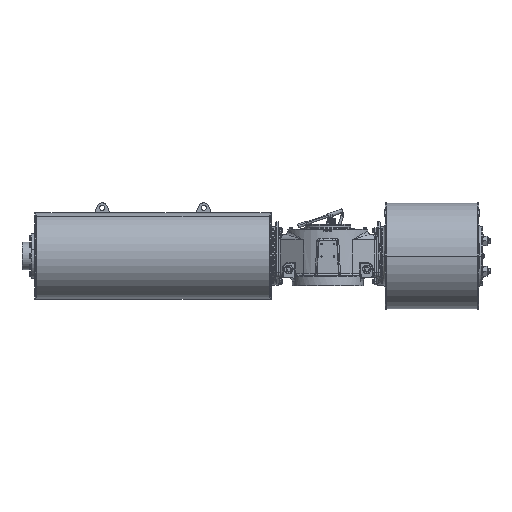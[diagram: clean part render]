
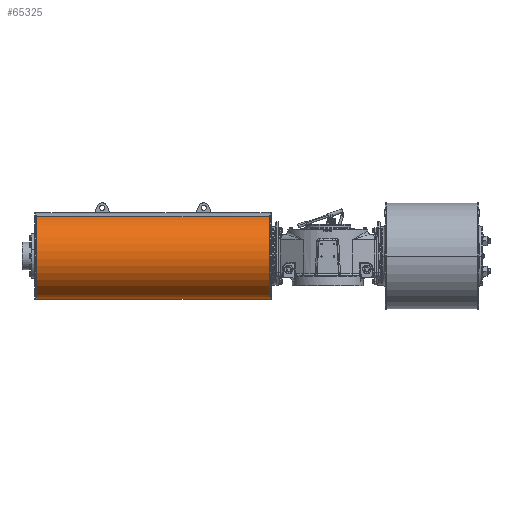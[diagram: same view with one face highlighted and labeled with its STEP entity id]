
A CAD part, front view. The second image highlights one B-rep face of the part: STEP entity #65325.
In plain terms, the highlighted cylindrical face has radius 340 mm (diameter 680 mm), a partial arc.
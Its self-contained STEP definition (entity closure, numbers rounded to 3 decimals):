
#5189 = CYLINDRICAL_SURFACE ( 'NONE', #39491, 340. ) ;
#13458 = CARTESIAN_POINT ( 'NONE',  ( -2293.385, 66.339, 479.326 ) ) ;
#15257 = VERTEX_POINT ( 'NONE', #75829 ) ;
#24182 = DIRECTION ( 'NONE',  ( 0., -0.402, 0.916 ) ) ;
#25962 = CARTESIAN_POINT ( 'NONE',  ( -462.615, 66.339, 479.326 ) ) ;
#27222 = CIRCLE ( 'NONE', #43622, 340. ) ;
#28581 = DIRECTION ( 'NONE',  ( 0., 0.402, -0.916 ) ) ;
#33830 = VERTEX_POINT ( 'NONE', #62854 ) ;
#34753 = DIRECTION ( 'NONE',  ( 0., -0.402, 0.916 ) ) ;
#39491 = AXIS2_PLACEMENT_3D ( 'NONE', #128643, #106758, #28581 ) ;
#40991 = FACE_OUTER_BOUND ( 'NONE', #133839, .T. ) ;
#41458 = AXIS2_PLACEMENT_3D ( 'NONE', #101249, #88833, #34753 ) ;
#43622 = AXIS2_PLACEMENT_3D ( 'NONE', #135212, #70980, #24182 ) ;
#44952 = VERTEX_POINT ( 'NONE', #13458 ) ;
#45763 = EDGE_CURVE ( 'NONE', #15257, #72994, #76422, .T. ) ;
#50395 = DIRECTION ( 'NONE',  ( 1., 0., 0. ) ) ;
#50873 = ORIENTED_EDGE ( 'NONE', *, *, #45763, .T. ) ;
#59384 = VECTOR ( 'NONE', #84275, 1000. ) ;
#61391 = CARTESIAN_POINT ( 'NONE',  ( -2298., 66.339, 479.326 ) ) ;
#62854 = CARTESIAN_POINT ( 'NONE',  ( -2293.385, 339.661, -143.326 ) ) ;
#65325 = ADVANCED_FACE ( 'NONE', ( #40991 ), #5189, .T. ) ;
#70980 = DIRECTION ( 'NONE',  ( 1., 0., 0. ) ) ;
#72994 = VERTEX_POINT ( 'NONE', #25962 ) ;
#75829 = CARTESIAN_POINT ( 'NONE',  ( -462.615, 339.661, -143.326 ) ) ;
#76422 = CIRCLE ( 'NONE', #41458, 340. ) ;
#84275 = DIRECTION ( 'NONE',  ( 1., 0., 0. ) ) ;
#85271 = EDGE_CURVE ( 'NONE', #44952, #33830, #27222, .T. ) ;
#88833 = DIRECTION ( 'NONE',  ( -1., 0., 0. ) ) ;
#95226 = LINE ( 'NONE', #132221, #59384 ) ;
#100629 = ORIENTED_EDGE ( 'NONE', *, *, #111237, .T. ) ;
#101249 = CARTESIAN_POINT ( 'NONE',  ( -462.615, 203., 168. ) ) ;
#105390 = ORIENTED_EDGE ( 'NONE', *, *, #85271, .T. ) ;
#106758 = DIRECTION ( 'NONE',  ( 1., 0., 0. ) ) ;
#110169 = ORIENTED_EDGE ( 'NONE', *, *, #141838, .F. ) ;
#111237 = EDGE_CURVE ( 'NONE', #33830, #15257, #95226, .T. ) ;
#125685 = VECTOR ( 'NONE', #50395, 1000. ) ;
#128643 = CARTESIAN_POINT ( 'NONE',  ( -2298., 203., 168. ) ) ;
#132221 = CARTESIAN_POINT ( 'NONE',  ( -2298., 339.661, -143.326 ) ) ;
#133839 = EDGE_LOOP ( 'NONE', ( #110169, #105390, #100629, #50873 ) ) ;
#135212 = CARTESIAN_POINT ( 'NONE',  ( -2293.385, 203., 168. ) ) ;
#140913 = LINE ( 'NONE', #61391, #125685 ) ;
#141838 = EDGE_CURVE ( 'NONE', #44952, #72994, #140913, .T. ) ;
